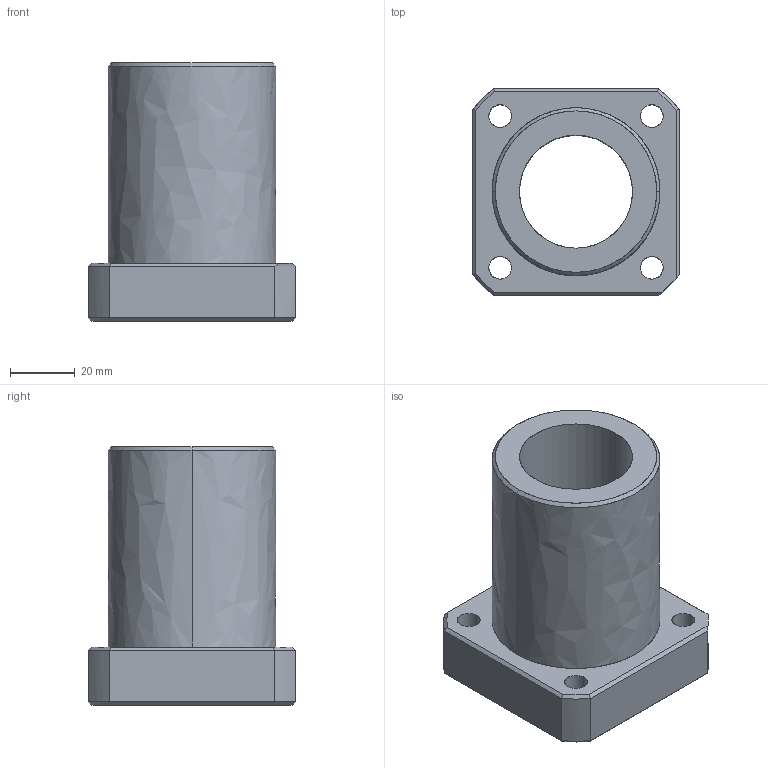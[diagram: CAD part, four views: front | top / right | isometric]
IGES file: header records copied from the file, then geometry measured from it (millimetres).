
Global section: file name: No Iges File Name specified; native system: AutoDesk Inventor R10; preprocessor: AutoDesk Inventor Iges Exporter R10; author: No Author specified; organization: No Organization specified; date: 20101214.155313; units: millimetre
Bounding box: 64 x 64 x 80 mm (x, y, z)
Surface area: 30273.1 mm2 (no closed solid volume)
Topology: 0 solids, 0 shells, 62 faces, 448 edges, 448 vertices
Faces by surface type: bspline 62
